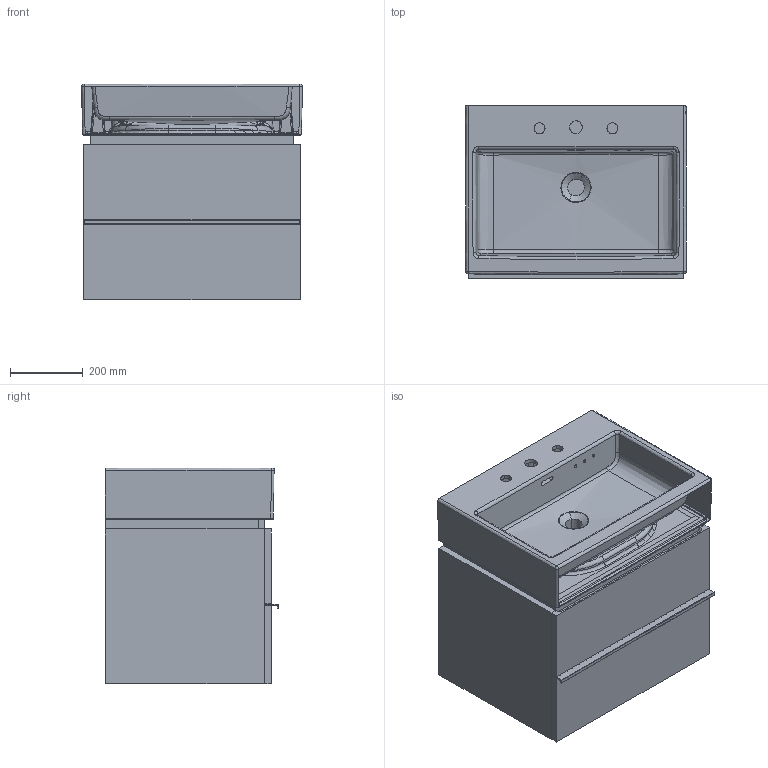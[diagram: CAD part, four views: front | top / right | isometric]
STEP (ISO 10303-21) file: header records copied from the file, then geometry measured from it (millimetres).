
FILE_DESCRIPTION(/* description */ (''),/* implementation_level */ '2;1');
FILE_NAME(/* name */ 'C:\Users\User33\Desktop\City\3D01_401182.stp',/* time_stamp */ '2018-05-15T17:52:31+02:00',/* author */ ('User33'),/* organization */ (''),/* preprocessor_version */ 'ST-DEVELOPER v16.13',/* originating_system */ 'Autodesk Inventor 2018',/* authorisation */ '');
FILE_SCHEMA (('AUTOMOTIVE_DESIGN { 1 0 10303 214 3 1 1 }'));
Products named in the file (37): 3D01_401182; 3D01_401182_1_1; 3D01_401182_1; 3D01_401182_1_2; 3D01_401182_2; 3D01_401182_3; 3D01_401182_4; 3D01_401182_5; 3D01_401182_6; 3D01_401182_7; 3D01_401182_8; 3D01_401182_9; 3D01_401182_10; 3D01_401182_11; 3D01_401182_12; 3D01_401182_13; 3D01_401182_14; 3D01_401182_15; 3D01_401182_16; 3D01_401182_17; 3D01_401182_18; 3D01_401182_19; 3D01_401182_20; 3D01_401182_21; 3D01_401182_22; 3D01_401182_23; 3D01_401182_24; 3D01_401182_25; 3D01_401182_26; 3D01_401182_27; 3D01_401182_28; 3D01_401182_29; 3D01_401182_30; 3D01_401182_31; 3D01_401182_32; 3D01_401182_33; 3D01_401182_34
Assembly tree (36 placements, depth 2):
  3D01_401182
    3D01_401182_1_1
    3D01_401182_1
    3D01_401182_1_2
    3D01_401182_2
    3D01_401182_3
    3D01_401182_4
    3D01_401182_5
    3D01_401182_6
    3D01_401182_7
    3D01_401182_8
    3D01_401182_9
    3D01_401182_10
    3D01_401182_11
    3D01_401182_12
    3D01_401182_13
    3D01_401182_14
    3D01_401182_15
    3D01_401182_16
    3D01_401182_17
    3D01_401182_18
    3D01_401182_19
    3D01_401182_20
    3D01_401182_21
    3D01_401182_22
    3D01_401182_23
    3D01_401182_24
    3D01_401182_25
    3D01_401182_26
    3D01_401182_27
    3D01_401182_28
    3D01_401182_29
    3D01_401182_30
    3D01_401182_31
    3D01_401182_32
    3D01_401182_33
    3D01_401182_34
Bounding box: 605.43 x 474.51 x 592 mm (x, y, z)
Volume: 26972620.1 mm3; surface area: 4834042.6 mm2
Topology: 35 solids, 451 shells, 1398 faces, 4496 edges, 3630 vertices
Faces by surface type: plane 791, cylinder 328, bspline 200, torus 43, cone 28, sphere 8
Full cylindrical faces by diameter (mm): 2.5 x4, 4 x14, 4.1 x4, 5.1 x4, 6 x12, 7.2 x4, 10 x4, 12 x4, 12.5 x5
Entity records: 92954 total; most frequent: CARTESIAN_POINT 51842, DIRECTION 7858, ORIENTED_EDGE 6907, EDGE_CURVE 4428, VERTEX_POINT 3630, AXIS2_PLACEMENT_3D 2723, LINE 2412, VECTOR 2412
